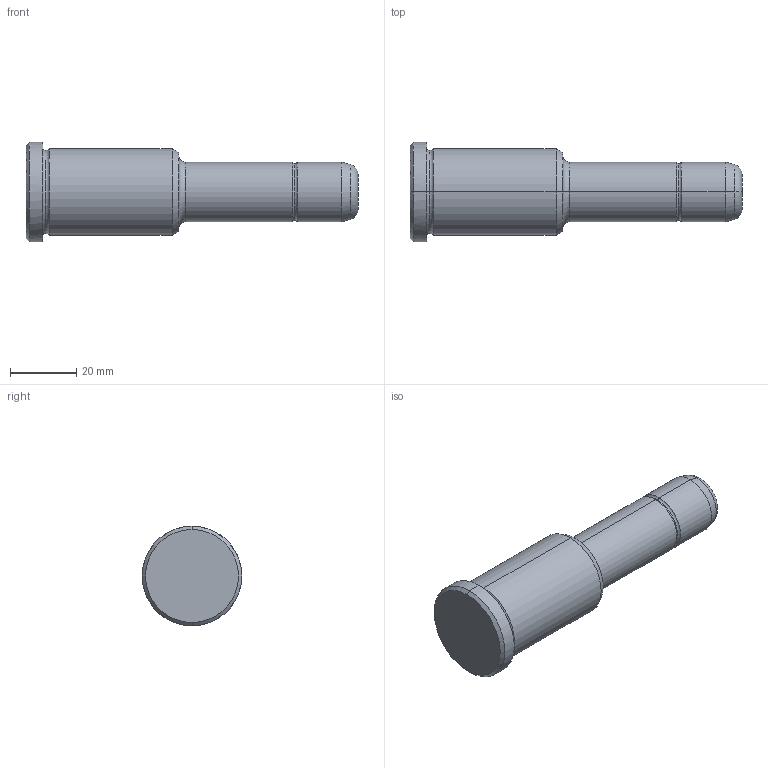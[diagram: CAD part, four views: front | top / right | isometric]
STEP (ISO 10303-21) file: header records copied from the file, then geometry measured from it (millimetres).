
FILE_DESCRIPTION(('CATIA V5 STEP Exchange'),'2;1');
FILE_NAME('C:\Users\Utente\Desktop\IO LAVORO\3D X SITO CF\X SITO\PLASTICA\351\351-18X46X100.stp','2021-08-19T12:37:33+00:00',('none'),('none'),'CATIA Version 5 Release 20 GA (IN-10)','CATIA V5 STEP AP203','none');
FILE_SCHEMA(('CONFIG_CONTROL_DESIGN'));
Length unit declared in the file: millimetre
Products named in the file (1): 351-18X46X100
Bounding box: 100 x 30 x 30 mm (x, y, z)
Volume: 38642.9 mm3; surface area: 8036.2 mm2
Topology: 1 solids, 1 shells, 30 faces, 86 edges, 60 vertices
Faces by surface type: torus 12, cylinder 8, cone 6, plane 4
Entity records: 1112 total; most frequent: CARTESIAN_POINT 289, ORIENTED_EDGE 172, DIRECTION 138, AXIS2_PLACEMENT_3D 95, EDGE_CURVE 86, CIRCLE 64, VERTEX_POINT 60, EDGE_LOOP 32
